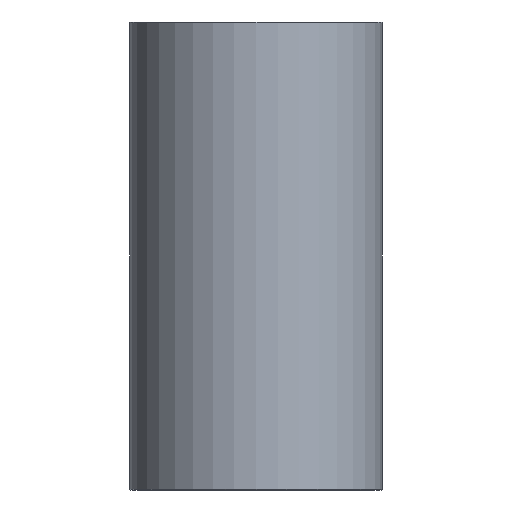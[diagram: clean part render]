
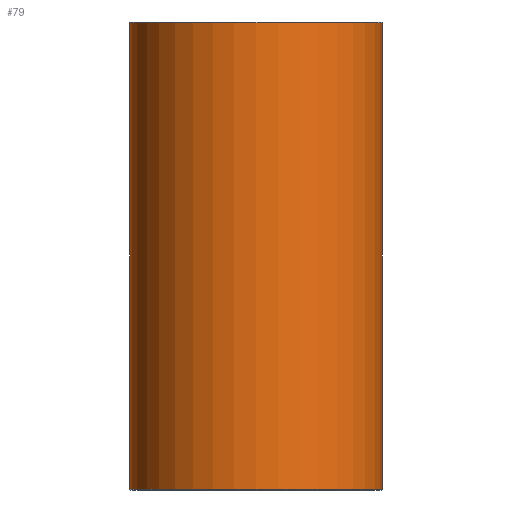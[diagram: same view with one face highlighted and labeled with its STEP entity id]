
A CAD part, front view. The second image highlights one B-rep face of the part: STEP entity #79.
In plain terms, the highlighted cylindrical face has radius 31 mm (diameter 62 mm), a full revolution.
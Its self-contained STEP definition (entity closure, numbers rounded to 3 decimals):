
#79=ADVANCED_FACE('',(#96,#97),#98,.T.);
#96=FACE_OUTER_BOUND('',#120,.T.);
#97=FACE_OUTER_BOUND('',#121,.T.);
#98=CYLINDRICAL_SURFACE('',#122,31.0);
#120=EDGE_LOOP('',(#152));
#121=EDGE_LOOP('',(#153));
#122=AXIS2_PLACEMENT_3D('',#154,#155,#156);
#152=ORIENTED_EDGE('',*,*,#178,.T.);
#153=ORIENTED_EDGE('',*,*,#177,.T.);
#154=CARTESIAN_POINT('',(0.0,0.0,115.0));
#155=DIRECTION('',(0.0,0.0,-1.0));
#156=DIRECTION('',(-1.0,0.0,0.0));
#177=EDGE_CURVE('',#190,#190,#191,.T.);
#178=EDGE_CURVE('',#192,#192,#193,.F.);
#190=VERTEX_POINT('',#206);
#191=CIRCLE('',#207,31.0);
#192=VERTEX_POINT('',#208);
#193=CIRCLE('',#209,31.0);
#206=CARTESIAN_POINT('',(31.0,0.0,0.2));
#207=AXIS2_PLACEMENT_3D('',#227,#228,#229);
#208=CARTESIAN_POINT('',(31.0,0.,114.8));
#209=AXIS2_PLACEMENT_3D('',#230,#231,#232);
#227=CARTESIAN_POINT('',(0.0,0.0,0.2));
#228=DIRECTION('',(0.0,0.0,1.0));
#229=DIRECTION('',(1.0,0.0,0.0));
#230=CARTESIAN_POINT('',(0.0,0.0,114.8));
#231=DIRECTION('',(0.0,0.0,1.0));
#232=DIRECTION('',(1.0,0.0,0.0));
